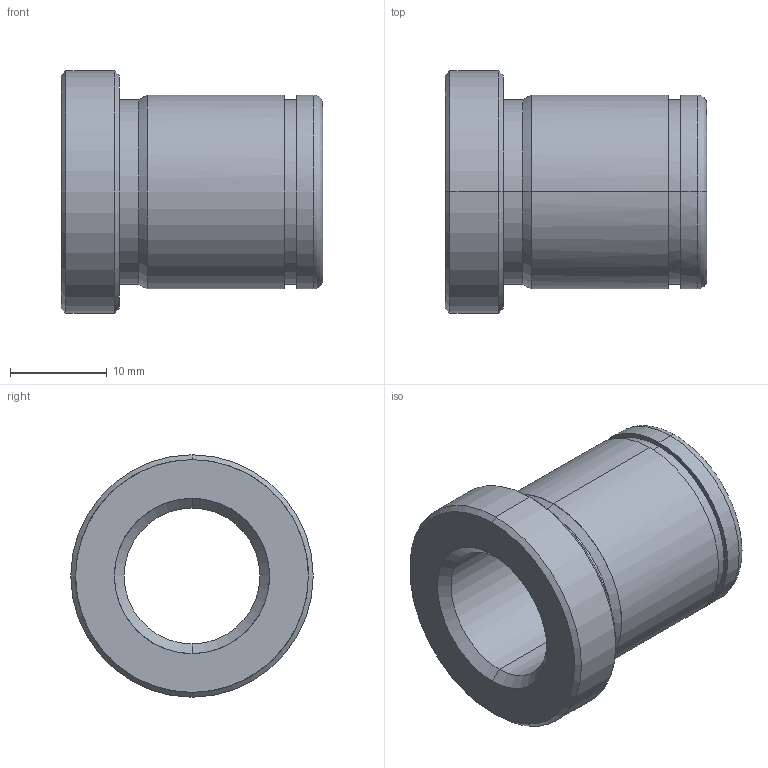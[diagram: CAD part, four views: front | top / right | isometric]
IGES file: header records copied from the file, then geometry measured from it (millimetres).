
Start section: START RECORD GO HERE.
Global section: file name: 553-14X27.igs; native system: DASSAULT SYSTEMES CATIA V5 R20 - www.3ds.com; preprocessor: CATIA Version 5 Release 20 ; author: Utente; organization: NB04-ASUS; date: 20210521.202636; units: millimetre
Bounding box: 27 x 25 x 25 mm (x, y, z)
Surface area: 3614.6 mm2 (no closed solid volume)
Topology: 0 solids, 0 shells, 29 faces, 184 edges, 184 vertices
Faces by surface type: revolution 24, plane 5
